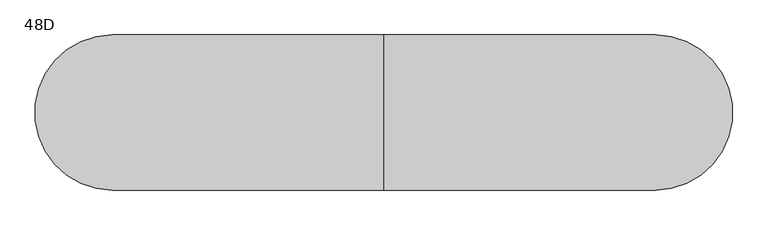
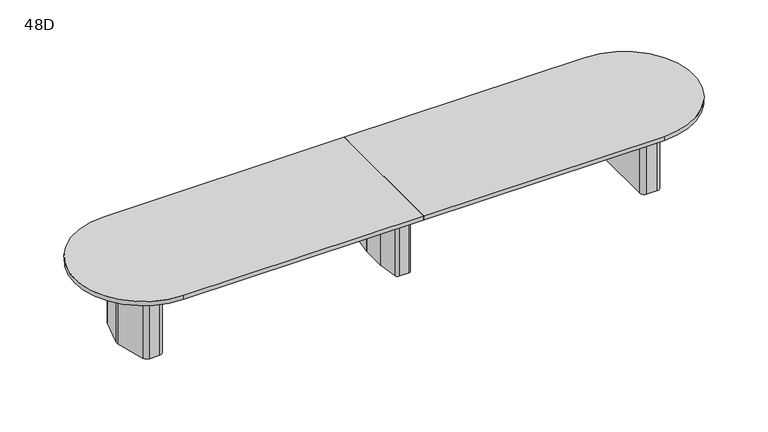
"""IFC4 building model written with IfcOpenShell, lengths in millimetres: furniture geometry, Coalesse_AM_Table_Conference_ETable2_Racetrack_18ft_ThreeBase : 48D."""

from ifc_helpers import new_model, si_unit, point, frame, frame_2d, origin, place, context, project, spatial, polyline, circle_curve, trimmed, segment, composite_curve, outline, extrude, source, transform, mapped, element, save
from ifc_brep_helpers import plane_surface, cylinder_surface, revolved_surface, advanced_brep


def furniture_48d_9ae3bff3(model_context):
    return source(origin(), model_context, "Body", "SolidModel", [
        advanced_brep(
        [(35.71875, 206.375, 3.175), (10.31875, 231.775, 3.175), (-10.31875, 231.775, 3.175), (-35.71875, 206.375, 3.175), (-35.71875, -206.375, 3.175), (-10.31875, -231.775, 3.175), (10.31875, -231.775, 3.175), (35.71875, -206.375, 3.175), (-61.11875, 206.375, 0.0), (-10.31875, 257.175, 0.0), (10.31875, 257.175, 0.0), (61.11875, 206.375, 0.0), (61.11875, -206.375, 0.0), (10.31875, -257.175, 0.0), (-10.31875, -257.175, 0.0), (-61.11875, -206.375, 0.0), (-61.11875, -206.375, 3.175), (-61.11875, 206.375, 3.175), (-10.31875, -257.175, 3.175), (10.31875, -257.175, 3.175), (61.11875, -206.375, 3.175), (61.11875, 206.375, 3.175), (10.31875, 257.175, 3.175), (-10.31875, 257.175, 3.175), (-92.6215974, 106.2976848, 698.5), (-92.86875, 102.7629613, 698.5), (-92.86875, -102.7629613, 698.5), (-92.6215974, -106.2976848, 698.5), (-67.7988375, -282.9347235, 698.5), (-42.6459902, -304.8, 698.5), (42.6459902, -304.8, 698.5), (67.7988375, -282.9347235, 698.5), (92.6215974, -106.2976848, 698.5), (92.86875, -102.7629613, 698.5), (92.86875, 102.7629613, 698.5), (92.6215974, 106.2976848, 698.5), (67.7988375, 282.9347235, 698.5), (42.6459902, 304.8, 698.5), (-42.6459902, 304.8, 698.5), (-67.7988375, 282.9347235, 698.5), (10.31875, 231.775, 698.5), (35.71875, 206.375, 698.5), (35.71875, -206.375, 698.5), (10.31875, -231.775, 698.5), (-10.31875, -231.775, 698.5), (-35.71875, -206.375, 698.5), (-35.71875, 206.375, 698.5), (-10.31875, 231.775, 698.5), (-92.6215974, 106.2976848, 3.175), (-67.7988375, 282.9347235, 3.175), (-42.6459902, 304.8, 3.175), (42.6459902, 304.8, 3.175), (67.7988375, 282.9347235, 3.175), (92.6215974, 106.2976848, 3.175), (92.86875, 102.7629613, 3.175), (92.86875, -102.7629613, 3.175), (92.6215974, -106.2976848, 3.175), (67.7988375, -282.9347235, 3.175), (42.6459902, -304.8, 3.175), (-42.6459902, -304.8, 3.175), (-67.7988375, -282.9347235, 3.175), (-92.6215974, -106.2976848, 3.175), (-92.86875, -102.7629613, 3.175), (-92.86875, 102.7629613, 3.175)],
        [
            (0, 1, circle_curve(frame((10.31875, 206.375, 3.175), z_axis=(0.0, 0.0, 1.0), x_axis=(1.0, 0.0, 0.0)), 25.4)),
            (1, 2),
            (2, 3, circle_curve(frame((-10.31875, 206.375, 3.175), z_axis=(0.0, 0.0, 1.0), x_axis=(1.0, 0.0, 0.0)), 25.4)),
            (3, 4),
            (4, 5, circle_curve(frame((-10.31875, -206.375, 3.175), z_axis=(0.0, 0.0, 1.0), x_axis=(1.0, 0.0, 0.0)), 25.4)),
            (5, 6),
            (6, 7, circle_curve(frame((10.31875, -206.375, 3.175), z_axis=(0.0, 0.0, 1.0), x_axis=(1.0, 0.0, 0.0)), 25.4)),
            (7, 0),
            (8, 9, circle_curve(frame((-10.31875, 206.375, 0.0), z_axis=(0.0, 0.0, -1.0), x_axis=(1.0, 0.0, 0.0)), 50.8)),
            (9, 10),
            (10, 11, circle_curve(frame((10.31875, 206.375, 0.0), z_axis=(0.0, 0.0, -1.0), x_axis=(1.0, 0.0, 0.0)), 50.8)),
            (11, 12),
            (12, 13, circle_curve(frame((10.31875, -206.375, 0.0), z_axis=(0.0, 0.0, -1.0), x_axis=(1.0, 0.0, 0.0)), 50.8)),
            (13, 14),
            (14, 15, circle_curve(frame((-10.31875, -206.375, 0.0), z_axis=(0.0, 0.0, -1.0), x_axis=(1.0, 0.0, 0.0)), 50.8)),
            (15, 8),
            (15, 16),
            (16, 17),
            (17, 8),
            (14, 18),
            (18, 16, circle_curve(frame((-10.31875, -206.375, 3.175), z_axis=(0.0, 0.0, -1.0), x_axis=(1.0, 0.0, 0.0)), 50.8)),
            (13, 19),
            (19, 18),
            (12, 20),
            (20, 19, circle_curve(frame((10.31875, -206.375, 3.175), z_axis=(0.0, 0.0, -1.0), x_axis=(1.0, 0.0, 0.0)), 50.8)),
            (11, 21),
            (21, 20),
            (10, 22),
            (22, 21, circle_curve(frame((10.31875, 206.375, 3.175), z_axis=(0.0, 0.0, -1.0), x_axis=(1.0, 0.0, 0.0)), 50.8)),
            (9, 23),
            (23, 22),
            (17, 23, circle_curve(frame((-10.31875, 206.375, 3.175), z_axis=(0.0, 0.0, -1.0), x_axis=(1.0, 0.0, 0.0)), 50.8)),
            (24, 25, circle_curve(frame((-67.46875, 102.7629613, 698.5), z_axis=(0.0, 0.0, 1.0), x_axis=(1.0, 0.0, 0.0)), 25.4)),
            (25, 26),
            (26, 27, circle_curve(frame((-67.46875, -102.7629613, 698.5), z_axis=(0.0, 0.0, 1.0), x_axis=(1.0, 0.0, 0.0)), 25.4)),
            (27, 28),
            (28, 29, circle_curve(frame((-42.6459902, -279.4, 698.5), z_axis=(0.0, 0.0, 1.0), x_axis=(1.0, 0.0, 0.0)), 25.4)),
            (29, 30),
            (30, 31, circle_curve(frame((42.6459902, -279.4, 698.5), z_axis=(0.0, 0.0, 1.0), x_axis=(1.0, 0.0, 0.0)), 25.4)),
            (31, 32),
            (32, 33, circle_curve(frame((67.46875, -102.7629613, 698.5), z_axis=(0.0, 0.0, 1.0), x_axis=(1.0, 0.0, 0.0)), 25.4)),
            (33, 34),
            (34, 35, circle_curve(frame((67.46875, 102.7629613, 698.5), z_axis=(0.0, 0.0, 1.0), x_axis=(1.0, 0.0, 0.0)), 25.4)),
            (35, 36),
            (36, 37, circle_curve(frame((42.6459902, 279.4, 698.5), z_axis=(0.0, 0.0, 1.0), x_axis=(1.0, 0.0, 0.0)), 25.4)),
            (37, 38),
            (38, 39, circle_curve(frame((-42.6459902, 279.4, 698.5), z_axis=(0.0, 0.0, 1.0), x_axis=(1.0, 0.0, 0.0)), 25.4)),
            (39, 24),
            (40, 41, circle_curve(frame((10.31875, 206.375, 698.5), z_axis=(0.0, 0.0, -1.0), x_axis=(1.0, 0.0, 0.0)), 25.4)),
            (41, 42),
            (42, 43, circle_curve(frame((10.31875, -206.375, 698.5), z_axis=(0.0, 0.0, -1.0), x_axis=(1.0, 0.0, 0.0)), 25.4)),
            (43, 44),
            (44, 45, circle_curve(frame((-10.31875, -206.375, 698.5), z_axis=(0.0, 0.0, -1.0), x_axis=(1.0, 0.0, 0.0)), 25.4)),
            (45, 46),
            (46, 47, circle_curve(frame((-10.31875, 206.375, 698.5), z_axis=(0.0, 0.0, -1.0), x_axis=(1.0, 0.0, 0.0)), 25.4)),
            (47, 40),
            (48, 49),
            (49, 50, circle_curve(frame((-42.6459902, 279.4, 3.175), z_axis=(0.0, 0.0, -1.0), x_axis=(1.0, 0.0, 0.0)), 25.4)),
            (50, 51),
            (51, 52, circle_curve(frame((42.6459902, 279.4, 3.175), z_axis=(0.0, 0.0, -1.0), x_axis=(1.0, 0.0, 0.0)), 25.4)),
            (52, 53),
            (53, 54, circle_curve(frame((67.46875, 102.7629613, 3.175), z_axis=(0.0, 0.0, -1.0), x_axis=(1.0, 0.0, 0.0)), 25.4)),
            (54, 55),
            (55, 56, circle_curve(frame((67.46875, -102.7629613, 3.175), z_axis=(0.0, 0.0, -1.0), x_axis=(1.0, 0.0, 0.0)), 25.4)),
            (56, 57),
            (57, 58, circle_curve(frame((42.6459902, -279.4, 3.175), z_axis=(0.0, 0.0, -1.0), x_axis=(1.0, 0.0, 0.0)), 25.4)),
            (58, 59),
            (59, 60, circle_curve(frame((-42.6459902, -279.4, 3.175), z_axis=(0.0, 0.0, -1.0), x_axis=(1.0, 0.0, 0.0)), 25.4)),
            (60, 61),
            (61, 62, circle_curve(frame((-67.46875, -102.7629613, 3.175), z_axis=(0.0, 0.0, -1.0), x_axis=(1.0, 0.0, 0.0)), 25.4)),
            (62, 63),
            (63, 48, circle_curve(frame((-67.46875, 102.7629613, 3.175), z_axis=(0.0, 0.0, -1.0), x_axis=(1.0, 0.0, 0.0)), 25.4)),
            (24, 48),
            (63, 25),
            (62, 26),
            (61, 27),
            (60, 28),
            (59, 29),
            (58, 30),
            (57, 31),
            (56, 32),
            (55, 33),
            (54, 34),
            (53, 35),
            (52, 36),
            (51, 37),
            (50, 38),
            (49, 39),
            (40, 1),
            (0, 41),
            (7, 42),
            (6, 43),
            (5, 44),
            (4, 45),
            (3, 46),
            (2, 47),
        ],
        [
            plane_surface(frame((-61.11875, -206.375, 3.175), z_axis=(0.0, 0.0, 1.0), x_axis=(0.0, -1.0, 0.0))),
            plane_surface(frame((-61.11875, -206.375, 0.0), z_axis=(0.0, 0.0, -1.0), x_axis=(0.0, 1.0, 0.0))),
            plane_surface(frame((-61.11875, 206.375, 3.175), z_axis=(-1.0, 0.0, 0.0), x_axis=(0.0, 0.0, -1.0))),
            cylinder_surface(frame((-10.31875, -206.375, 0.0), z_axis=(0.0, 0.0, 1.0), x_axis=(1.0, 0.0, 0.0)), 50.8),
            plane_surface(frame((-10.31875, -257.175, 3.175), z_axis=(0.0, -1.0, 0.0), x_axis=(0.0, 0.0, -1.0))),
            cylinder_surface(frame((10.31875, -206.375, 0.0), z_axis=(0.0, 0.0, 1.0), x_axis=(1.0, 0.0, 0.0)), 50.8),
            plane_surface(frame((61.11875, -206.375, 3.175), z_axis=(1.0, 0.0, 0.0), x_axis=(0.0, 0.0, -1.0))),
            cylinder_surface(frame((10.31875, 206.375, 0.0), z_axis=(0.0, 0.0, 1.0), x_axis=(1.0, 0.0, 0.0)), 50.8),
            plane_surface(frame((10.31875, 257.175, 3.175), z_axis=(0.0, 1.0, 0.0), x_axis=(0.0, 0.0, -1.0))),
            cylinder_surface(frame((-10.31875, 206.375, 0.0), z_axis=(0.0, 0.0, 1.0), x_axis=(1.0, 0.0, 0.0)), 50.8),
            plane_surface(frame((-42.06875, 102.7629613, 698.5), z_axis=(0.0, 0.0, 1.0), x_axis=(0.0, 1.0, 0.0))),
            plane_surface(frame((-42.06875, 102.7629613, 3.175), z_axis=(0.0, 0.0, -1.0), x_axis=(0.0, -1.0, 0.0))),
            cylinder_surface(frame((-67.46875, 102.7629613, 3.175), z_axis=(0.0, 0.0, 1.0), x_axis=(1.0, 0.0, 0.0)), 25.4),
            plane_surface(frame((-92.86875, 102.7629613, 698.5), z_axis=(-1.0, 0.0, 0.0), x_axis=(0.0, 0.0, -1.0))),
            cylinder_surface(frame((-67.46875, -102.7629613, 3.175), z_axis=(0.0, 0.0, 1.0), x_axis=(1.0, 0.0, 0.0)), 25.4),
            plane_surface(frame((-92.6215974, -106.2976848, 698.5), z_axis=(-0.9902695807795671, -0.13916234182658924, 0.0), x_axis=(0.0, 0.0, -1.0))),
            cylinder_surface(frame((-42.6459902, -279.4, 3.175), z_axis=(0.0, 0.0, 1.0), x_axis=(1.0, 0.0, 0.0)), 25.4),
            plane_surface(frame((-42.6459902, -304.8, 698.5), z_axis=(0.0, -1.0, 0.0), x_axis=(0.0, 0.0, -1.0))),
            cylinder_surface(frame((42.6459902, -279.4, 3.175), z_axis=(0.0, 0.0, 1.0), x_axis=(1.0, 0.0, 0.0)), 25.4),
            plane_surface(frame((67.7988375, -282.9347235, 698.5), z_axis=(0.9902695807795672, -0.13916234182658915, 0.0), x_axis=(0.0, 0.0, -1.0))),
            cylinder_surface(frame((67.46875, -102.7629613, 3.175), z_axis=(0.0, 0.0, 1.0), x_axis=(1.0, 0.0, 0.0)), 25.4),
            plane_surface(frame((92.86875, -102.7629613, 698.5), z_axis=(1.0, 0.0, 0.0), x_axis=(0.0, 0.0, -1.0))),
            cylinder_surface(frame((67.46875, 102.7629613, 3.175), z_axis=(0.0, 0.0, 1.0), x_axis=(1.0, 0.0, 0.0)), 25.4),
            plane_surface(frame((92.6215974, 106.2976848, 698.5), z_axis=(0.9902695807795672, 0.1391623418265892, 0.0), x_axis=(0.0, 0.0, -1.0))),
            cylinder_surface(frame((42.6459902, 279.4, 3.175), z_axis=(0.0, 0.0, 1.0), x_axis=(1.0, 0.0, 0.0)), 25.4),
            plane_surface(frame((42.6459902, 304.8, 698.5), z_axis=(0.0, 1.0, 0.0), x_axis=(0.0, 0.0, -1.0))),
            cylinder_surface(frame((-42.6459902, 279.4, 3.175), z_axis=(0.0, 0.0, 1.0), x_axis=(1.0, 0.0, 0.0)), 25.4),
            plane_surface(frame((-67.7988375, 282.9347235, 698.5), z_axis=(-0.9902695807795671, 0.13916234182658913, 0.0), x_axis=(0.0, 0.0, -1.0))),
            revolved_surface(polyline([(35.71875, 206.375, 3.175), (35.71875, 206.375, 698.5)]), (10.31875, 206.375, 0.0), (0.0, 0.0, -1.0)),
            plane_surface(frame((35.71875, 206.375, 698.5), z_axis=(-1.0, 0.0, 0.0), x_axis=(0.0, 0.0, -1.0))),
            revolved_surface(polyline([(35.71875, -206.375, 3.175), (35.71875, -206.375, 698.5)]), (10.31875, -206.375, 0.0), (0.0, 0.0, -1.0)),
            plane_surface(frame((10.31875, -231.775, 698.5), z_axis=(0.0, 1.0, 0.0), x_axis=(0.0, 0.0, -1.0))),
            revolved_surface(polyline([(15.081249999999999, -206.375, 3.175), (15.081249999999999, -206.375, 698.5)]), (-10.31875, -206.375, 0.0), (0.0, 0.0, -1.0)),
            plane_surface(frame((-35.71875, -206.375, 698.5), z_axis=(1.0, 0.0, 0.0), x_axis=(0.0, 0.0, -1.0))),
            revolved_surface(polyline([(15.081249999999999, 206.375, 3.175), (15.081249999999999, 206.375, 698.5)]), (-10.31875, 206.375, 0.0), (0.0, 0.0, -1.0)),
            plane_surface(frame((-10.31875, 231.775, 698.5), z_axis=(0.0, -1.0, 0.0), x_axis=(0.0, 0.0, -1.0))),
        ],
        [
            (0, [[1, 2, 3, 4, 5, 6, 7, 8]]),
            (1, [[9, 10, 11, 12, 13, 14, 15, 16]]),
            (2, [[-16, 17, 18, 19]]),
            (3, [[-15, 20, 21, -17]]),
            (4, [[-14, 22, 23, -20]]),
            (5, [[-13, 24, 25, -22]]),
            (6, [[-12, 26, 27, -24]]),
            (7, [[-11, 28, 29, -26]]),
            (8, [[-10, 30, 31, -28]]),
            (9, [[-9, -19, 32, -30]]),
            (10, [[33, 34, 35, 36, 37, 38, 39, 40, 41, 42, 43, 44, 45, 46, 47, 48], [49, 50, 51, 52, 53, 54, 55, 56]]),
            (11, [[57, 58, 59, 60, 61, 62, 63, 64, 65, 66, 67, 68, 69, 70, 71, 72], [-18, -21, -23, -25, -27, -29, -31, -32]]),
            (12, [[-33, 73, -72, 74]]),
            (13, [[-34, -74, -71, 75]]),
            (14, [[-35, -75, -70, 76]]),
            (15, [[-36, -76, -69, 77]]),
            (16, [[-37, -77, -68, 78]]),
            (17, [[-38, -78, -67, 79]]),
            (18, [[-39, -79, -66, 80]]),
            (19, [[-40, -80, -65, 81]]),
            (20, [[-41, -81, -64, 82]]),
            (21, [[-42, -82, -63, 83]]),
            (22, [[-43, -83, -62, 84]]),
            (23, [[-44, -84, -61, 85]]),
            (24, [[-45, -85, -60, 86]]),
            (25, [[-46, -86, -59, 87]]),
            (26, [[-47, -87, -58, 88]]),
            (27, [[-48, -88, -57, -73]]),
            (28, [[-49, 89, -1, 90]]),
            (29, [[-50, -90, -8, 91]]),
            (30, [[-51, -91, -7, 92]]),
            (31, [[-52, -92, -6, 93]]),
            (32, [[-53, -93, -5, 94]]),
            (33, [[-54, -94, -4, 95]]),
            (34, [[-55, -95, -3, 96]]),
            (35, [[-56, -96, -2, -89]]),
        ],
    ),
        advanced_brep(
        [(2284.624548, 274.2093613, 698.5), (2244.7579246, 304.8, 698.5), (2155.825, 304.8, 698.5), (2114.55, 263.525, 698.5), (2114.55, -263.525, 698.5), (2155.825, -304.8, 698.5), (2244.7579246, -304.8, 698.5), (2284.624548, -274.2093613, 698.5), (2355.2503901, -10.6333708, 698.5), (2355.2503901, 10.6333708, 698.5), (2152.65, -206.375, 698.5), (2152.65, 206.375, 698.5), (2178.05, 231.775, 698.5), (2237.0608422, 231.775, 698.5), (2261.595338, 212.9490792, 698.5), (2300.2875, 68.54974, 698.5), (2300.2875, -68.54974, 698.5), (2261.595338, -212.9490792, 698.5), (2237.0608422, -231.775, 698.5), (2178.05, -231.775, 698.5), (2284.624548, 274.2093613, 3.175), (2355.2503901, 10.6333708, 3.175), (2355.2503901, -10.6333708, 3.175), (2284.624548, -274.2093613, 3.175), (2244.7579246, -304.8, 3.175), (2155.825, -304.8, 3.175), (2114.55, -263.525, 3.175), (2114.55, 263.525, 3.175), (2155.825, 304.8, 3.175), (2244.7579246, 304.8, 3.175), (2273.8625859, 216.2361187, 3.175), (2237.0608422, 244.475, 3.175), (2178.05, 244.475, 3.175), (2139.95, 206.375, 3.175), (2139.95, -206.375, 3.175), (2178.05, -244.475, 3.175), (2237.0608422, -244.475, 3.175), (2273.8625859, -216.2361187, 3.175), (2312.9875, -70.2217466, 3.175), (2312.9875, 70.2217466, 3.175), (2178.05, -231.775, 3.175), (2152.65, -206.375, 3.175), (2237.0608422, -231.775, 3.175), (2261.595338, -212.9490792, 3.175), (2300.2875, -68.54974, 3.175), (2300.2875, 68.54974, 3.175), (2261.595338, 212.9490792, 3.175), (2237.0608422, 231.775, 3.175), (2178.05, 231.775, 3.175), (2152.65, 206.375, 3.175), (2273.8625859, 216.2361187, 0.0), (2312.9875, 70.2217466, 0.0), (2312.9875, -70.2217466, 0.0), (2273.8625859, -216.2361187, 0.0), (2237.0608422, -244.475, 0.0), (2178.05, -244.475, 0.0), (2139.95, -206.375, 0.0), (2139.95, 206.375, 0.0), (2178.05, 244.475, 0.0), (2237.0608422, 244.475, 0.0)],
        [
            (0, 1, circle_curve(frame((2244.7579246, 263.5270004, 698.5), z_axis=(0.0, 0.0, 1.0), x_axis=(-1.0, 0.0, 0.0)), 41.2729996)),
            (1, 2),
            (2, 3, circle_curve(frame((2155.825, 263.525, 698.5), z_axis=(0.0, 0.0, 1.0), x_axis=(-1.0, 0.0, 0.0)), 41.275)),
            (3, 4),
            (4, 5, circle_curve(frame((2155.825, -263.525, 698.5), z_axis=(0.0, 0.0, 1.0), x_axis=(-1.0, 0.0, 0.0)), 41.275)),
            (5, 6),
            (6, 7, circle_curve(frame((2244.7579246, -263.5270004, 698.5), z_axis=(0.0, 0.0, 1.0), x_axis=(-1.0, 0.0, 0.0)), 41.2729996)),
            (7, 8),
            (8, 9, circle_curve(frame((2315.5665979, 0.0, 698.5), z_axis=(0.0, 0.0, 1.0), x_axis=(-1.0, 0.0, 0.0)), 41.0837187)),
            (9, 0),
            (10, 11),
            (11, 12, circle_curve(frame((2178.05, 206.375, 698.5), z_axis=(0.0, 0.0, -1.0), x_axis=(-1.0, 0.0, 0.0)), 25.4)),
            (12, 13),
            (13, 14, circle_curve(frame((2237.0608422, 206.375, 698.5), z_axis=(0.0, 0.0, -1.0), x_axis=(-1.0, 0.0, 0.0)), 25.4)),
            (14, 15),
            (15, 16),
            (16, 17),
            (17, 18, circle_curve(frame((2237.0608422, -206.375, 698.5), z_axis=(0.0, 0.0, -1.0), x_axis=(-1.0, 0.0, 0.0)), 25.4)),
            (18, 19),
            (19, 10, circle_curve(frame((2178.05, -206.375, 698.5), z_axis=(0.0, 0.0, -1.0), x_axis=(-1.0, 0.0, 0.0)), 25.4)),
            (20, 21),
            (21, 22, circle_curve(frame((2315.5665979, 0.0, 3.175), z_axis=(0.0, 0.0, -1.0), x_axis=(-1.0, 0.0, 0.0)), 41.0837187)),
            (22, 23),
            (23, 24, circle_curve(frame((2244.7579246, -263.5270004, 3.175), z_axis=(0.0, 0.0, -1.0), x_axis=(-1.0, 0.0, 0.0)), 41.2729996)),
            (24, 25),
            (25, 26, circle_curve(frame((2155.825, -263.525, 3.175), z_axis=(0.0, 0.0, -1.0), x_axis=(-1.0, 0.0, 0.0)), 41.275)),
            (26, 27),
            (27, 28, circle_curve(frame((2155.825, 263.525, 3.175), z_axis=(0.0, 0.0, -1.0), x_axis=(-1.0, 0.0, 0.0)), 41.275)),
            (28, 29),
            (29, 20, circle_curve(frame((2244.7579246, 263.5270004, 3.175), z_axis=(0.0, 0.0, -1.0), x_axis=(-1.0, 0.0, 0.0)), 41.2729996)),
            (30, 31, circle_curve(frame((2237.0608422, 206.375, 3.175), z_axis=(0.0, 0.0, 1.0), x_axis=(-1.0, 0.0, 0.0)), 38.1)),
            (31, 32),
            (32, 33, circle_curve(frame((2178.05, 206.375, 3.175), z_axis=(0.0, 0.0, 1.0), x_axis=(-1.0, 0.0, 0.0)), 38.1)),
            (33, 34),
            (34, 35, circle_curve(frame((2178.05, -206.375, 3.175), z_axis=(0.0, 0.0, 1.0), x_axis=(-1.0, 0.0, 0.0)), 38.1)),
            (35, 36),
            (36, 37, circle_curve(frame((2237.0608422, -206.375, 3.175), z_axis=(0.0, 0.0, 1.0), x_axis=(-1.0, 0.0, 0.0)), 38.1)),
            (37, 38),
            (38, 39),
            (39, 30),
            (9, 21),
            (20, 0),
            (8, 22),
            (7, 23),
            (6, 24),
            (5, 25),
            (4, 26),
            (3, 27),
            (2, 28),
            (1, 29),
            (19, 40),
            (40, 41, circle_curve(frame((2178.05, -206.375, 3.175), z_axis=(0.0, 0.0, -1.0), x_axis=(-1.0, 0.0, 0.0)), 25.4)),
            (41, 10),
            (18, 42),
            (42, 40),
            (17, 43),
            (43, 42, circle_curve(frame((2237.0608422, -206.375, 3.175), z_axis=(0.0, 0.0, -1.0), x_axis=(-1.0, 0.0, 0.0)), 25.4)),
            (16, 44),
            (44, 43),
            (15, 45),
            (45, 44),
            (14, 46),
            (46, 45),
            (13, 47),
            (47, 46, circle_curve(frame((2237.0608422, 206.375, 3.175), z_axis=(0.0, 0.0, -1.0), x_axis=(-1.0, 0.0, 0.0)), 25.4)),
            (12, 48),
            (48, 47),
            (11, 49),
            (49, 48, circle_curve(frame((2178.05, 206.375, 3.175), z_axis=(0.0, 0.0, -1.0), x_axis=(-1.0, 0.0, 0.0)), 25.4)),
            (41, 49),
            (50, 51),
            (51, 52),
            (52, 53),
            (53, 54, circle_curve(frame((2237.0608422, -206.375, 0.0), z_axis=(0.0, 0.0, -1.0), x_axis=(-1.0, 0.0, 0.0)), 38.1)),
            (54, 55),
            (55, 56, circle_curve(frame((2178.05, -206.375, 0.0), z_axis=(0.0, 0.0, -1.0), x_axis=(-1.0, 0.0, 0.0)), 38.1)),
            (56, 57),
            (57, 58, circle_curve(frame((2178.05, 206.375, 0.0), z_axis=(0.0, 0.0, -1.0), x_axis=(-1.0, 0.0, 0.0)), 38.1)),
            (58, 59),
            (59, 50, circle_curve(frame((2237.0608422, 206.375, 0.0), z_axis=(0.0, 0.0, -1.0), x_axis=(-1.0, 0.0, 0.0)), 38.1)),
            (50, 30),
            (39, 51),
            (38, 52),
            (37, 53),
            (36, 54),
            (35, 55),
            (34, 56),
            (33, 57),
            (32, 58),
            (31, 59),
        ],
        [
            plane_surface(frame((2355.2374275, 10.6817473, 698.5), z_axis=(0.0, 0.0, 1.0000000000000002), x_axis=(0.25882201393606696, -0.9659250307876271, 0.0))),
            plane_surface(frame((2355.2374275, 10.6817473, 3.175), z_axis=(0.0, 0.0, -1.0000000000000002), x_axis=(-0.25882201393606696, 0.9659250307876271, 0.0))),
            plane_surface(frame((2284.624548, 274.2093613, 698.5), z_axis=(0.9659250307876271, 0.25882201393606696, 0.0), x_axis=(0.0, 0.0, -1.0))),
            cylinder_surface(frame((2315.5665979, 0.0, 3.175), z_axis=(0.0, 0.0, 1.0), x_axis=(-1.0, 0.0, 0.0)), 41.0837187),
            plane_surface(frame((2355.2503901, -10.6333708, 698.5), z_axis=(0.9659250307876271, -0.2588220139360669, 0.0), x_axis=(0.0, 0.0, -1.0))),
            cylinder_surface(frame((2244.7579246, -263.5270004, 3.175), z_axis=(0.0, 0.0, 1.0), x_axis=(-1.0, 0.0, 0.0)), 41.2729996),
            plane_surface(frame((2244.7579246, -304.8, 698.5), z_axis=(0.0, -1.0, 0.0), x_axis=(0.0, 0.0, -1.0))),
            cylinder_surface(frame((2155.825, -263.525, 3.175), z_axis=(0.0, 0.0, 1.0), x_axis=(-1.0, 0.0, 0.0)), 41.275),
            plane_surface(frame((2114.55, -263.525, 698.5), z_axis=(-1.0, 0.0, 0.0), x_axis=(0.0, 0.0, -1.0))),
            cylinder_surface(frame((2155.825, 263.525, 3.175), z_axis=(0.0, 0.0, 1.0), x_axis=(-1.0, 0.0, 0.0)), 41.275),
            plane_surface(frame((2155.825, 304.8, 698.5), z_axis=(0.0, 1.0, 0.0), x_axis=(0.0, 0.0, -1.0))),
            cylinder_surface(frame((2244.7579246, 263.5270004, 3.175), z_axis=(0.0, 0.0, 1.0), x_axis=(-1.0, 0.0, 0.0)), 41.2729996),
            revolved_surface(polyline([(2152.65, -206.375, 3.175), (2152.65, -206.375, 698.5)]), (2178.05, -206.375, 0.0), (0.0, 0.0, -1.0)),
            plane_surface(frame((2178.05, -231.775, 698.5), z_axis=(0.0, 1.0, 0.0), x_axis=(0.0, 0.0, -1.0))),
            revolved_surface(polyline([(2211.6608422, -206.375, 3.175), (2211.6608422, -206.375, 698.5)]), (2237.0608422, -206.375, 0.0), (0.0, 0.0, -1.0)),
            plane_surface(frame((2261.595338, -212.9490792, 698.5), z_axis=(-0.9659250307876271, 0.2588220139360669, 0.0), x_axis=(0.0, 0.0, -1.0))),
            plane_surface(frame((2300.2875, -68.54974, 698.5), z_axis=(-1.0, 0.0, 0.0), x_axis=(0.0, 0.0, -1.0))),
            plane_surface(frame((2300.2875, 68.54974, 698.5), z_axis=(-0.9659250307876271, -0.25882201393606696, 0.0), x_axis=(0.0, 0.0, -1.0))),
            revolved_surface(polyline([(2211.6608422, 206.375, 3.175), (2211.6608422, 206.375, 698.5)]), (2237.0608422, 206.375, 0.0), (0.0, 0.0, -1.0)),
            plane_surface(frame((2237.0608422, 231.775, 698.5), z_axis=(0.0, -1.0, 0.0), x_axis=(0.0, 0.0, -1.0))),
            revolved_surface(polyline([(2152.65, 206.375, 3.175), (2152.65, 206.375, 698.5)]), (2178.05, 206.375, 0.0), (0.0, 0.0, -1.0)),
            plane_surface(frame((2152.65, 206.375, 698.5), z_axis=(1.0, 0.0, 0.0), x_axis=(0.0, 0.0, -1.0))),
            plane_surface(frame((2312.5547479, 71.8367796, 3.175), z_axis=(0.0, 0.0, 1.0), x_axis=(0.25882201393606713, -0.965925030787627, 0.0))),
            plane_surface(frame((2312.5547479, 71.8367796, 0.0), z_axis=(0.0, 0.0, -1.0), x_axis=(-0.25882201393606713, 0.965925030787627, 0.0))),
            plane_surface(frame((2273.8625859, 216.2361187, 3.175), z_axis=(0.965925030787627, 0.25882201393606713, 0.0), x_axis=(0.0, 0.0, -1.0))),
            plane_surface(frame((2312.9875, 70.2217466, 3.175), z_axis=(1.0, 0.0, 0.0), x_axis=(0.0, 0.0, -1.0))),
            plane_surface(frame((2312.9875, -70.2217466, 3.175), z_axis=(0.9659250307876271, -0.2588220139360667, 0.0), x_axis=(0.0, 0.0, -1.0))),
            cylinder_surface(frame((2237.0608422, -206.375, 0.0), z_axis=(0.0, 0.0, 1.0), x_axis=(-1.0, 0.0, 0.0)), 38.1),
            plane_surface(frame((2237.0608422, -244.475, 3.175), z_axis=(0.0, -1.0, 0.0), x_axis=(0.0, 0.0, -1.0))),
            cylinder_surface(frame((2178.05, -206.375, 0.0), z_axis=(0.0, 0.0, 1.0), x_axis=(-1.0, 0.0, 0.0)), 38.1),
            plane_surface(frame((2139.95, -206.375, 3.175), z_axis=(-1.0, 0.0, 0.0), x_axis=(0.0, 0.0, -1.0))),
            cylinder_surface(frame((2178.05, 206.375, 0.0), z_axis=(0.0, 0.0, 1.0), x_axis=(-1.0, 0.0, 0.0)), 38.1),
            plane_surface(frame((2178.05, 244.475, 3.175), z_axis=(0.0, 1.0, 0.0), x_axis=(0.0, 0.0, -1.0))),
            cylinder_surface(frame((2237.0608422, 206.375, 0.0), z_axis=(0.0, 0.0, 1.0), x_axis=(-1.0, 0.0, 0.0)), 38.1),
        ],
        [
            (0, [[1, 2, 3, 4, 5, 6, 7, 8, 9, 10], [11, 12, 13, 14, 15, 16, 17, 18, 19, 20]]),
            (1, [[21, 22, 23, 24, 25, 26, 27, 28, 29, 30], [31, 32, 33, 34, 35, 36, 37, 38, 39, 40]]),
            (2, [[41, -21, 42, -10]]),
            (3, [[43, -22, -41, -9]]),
            (4, [[44, -23, -43, -8]]),
            (5, [[45, -24, -44, -7]]),
            (6, [[46, -25, -45, -6]]),
            (7, [[47, -26, -46, -5]]),
            (8, [[48, -27, -47, -4]]),
            (9, [[49, -28, -48, -3]]),
            (10, [[50, -29, -49, -2]]),
            (11, [[-42, -30, -50, -1]]),
            (12, [[51, 52, 53, -20]]),
            (13, [[54, 55, -51, -19]]),
            (14, [[56, 57, -54, -18]]),
            (15, [[58, 59, -56, -17]]),
            (16, [[60, 61, -58, -16]]),
            (17, [[62, 63, -60, -15]]),
            (18, [[64, 65, -62, -14]]),
            (19, [[66, 67, -64, -13]]),
            (20, [[68, 69, -66, -12]]),
            (21, [[-53, 70, -68, -11]]),
            (22, [[-55, -57, -59, -61, -63, -65, -67, -69, -70, -52]]),
            (23, [[71, 72, 73, 74, 75, 76, 77, 78, 79, 80]]),
            (24, [[81, -40, 82, -71]]),
            (25, [[-82, -39, 83, -72]]),
            (26, [[-83, -38, 84, -73]]),
            (27, [[-84, -37, 85, -74]]),
            (28, [[-85, -36, 86, -75]]),
            (29, [[-86, -35, 87, -76]]),
            (30, [[-87, -34, 88, -77]]),
            (31, [[-88, -33, 89, -78]]),
            (32, [[-89, -32, 90, -79]]),
            (33, [[-90, -31, -81, -80]]),
        ],
    ),
        advanced_brep(
        [(-2295.737048, 274.2093613, 698.5), (-2366.3628901, 10.6333708, 698.5), (-2366.3628901, -10.6333708, 698.5), (-2295.737048, -274.2093613, 698.5), (-2255.8704246, -304.8, 698.5), (-2166.9375, -304.8, 698.5), (-2125.6625, -263.525, 698.5), (-2125.6625, 263.525, 698.5), (-2166.9375, 304.8, 698.5), (-2255.8704246, 304.8, 698.5), (-2163.7625, -206.375, 698.5), (-2189.1625, -231.775, 698.5), (-2248.1733422, -231.775, 698.5), (-2272.707838, -212.9490792, 698.5), (-2311.4, -68.54974, 698.5), (-2311.4, 68.54974, 698.5), (-2272.707838, 212.9490792, 698.5), (-2248.1733422, 231.775, 698.5), (-2189.1625, 231.775, 698.5), (-2163.7625, 206.375, 698.5), (-2295.737048, 274.2093613, 3.175), (-2255.8704246, 304.8, 3.175), (-2166.9375, 304.8, 3.175), (-2125.6625, 263.525, 3.175), (-2125.6625, -263.525, 3.175), (-2166.9375, -304.8, 3.175), (-2255.8704246, -304.8, 3.175), (-2295.737048, -274.2093613, 3.175), (-2366.3628901, -10.6333708, 3.175), (-2366.3628901, 10.6333708, 3.175), (-2284.9750859, 216.2361187, 3.175), (-2324.1, 70.2217466, 3.175), (-2324.1, -70.2217466, 3.175), (-2284.9750859, -216.2361187, 3.175), (-2248.1733422, -244.475, 3.175), (-2189.1625, -244.475, 3.175), (-2151.0625, -206.375, 3.175), (-2151.0625, 206.375, 3.175), (-2189.1625, 244.475, 3.175), (-2248.1733422, 244.475, 3.175), (-2163.7625, -206.375, 3.175), (-2189.1625, -231.775, 3.175), (-2248.1733422, -231.775, 3.175), (-2272.707838, -212.9490792, 3.175), (-2311.4, -68.54974, 3.175), (-2311.4, 68.54974, 3.175), (-2272.707838, 212.9490792, 3.175), (-2248.1733422, 231.775, 3.175), (-2189.1625, 231.775, 3.175), (-2163.7625, 206.375, 3.175), (-2284.9750859, 216.2361187, 0.0), (-2248.1733422, 244.475, 0.0), (-2189.1625, 244.475, 0.0), (-2151.0625, 206.375, 0.0), (-2151.0625, -206.375, 0.0), (-2189.1625, -244.475, 0.0), (-2248.1733422, -244.475, 0.0), (-2284.9750859, -216.2361187, 0.0), (-2324.1, -70.2217466, 0.0), (-2324.1, 70.2217466, 0.0)],
        [
            (0, 1),
            (1, 2, circle_curve(frame((-2326.6790979, 0.0, 698.5), z_axis=(0.0, 0.0, 1.0), x_axis=(1.0, 0.0, 0.0)), 41.0837187)),
            (2, 3),
            (3, 4, circle_curve(frame((-2255.8704246, -263.5270004, 698.5), z_axis=(0.0, 0.0, 1.0), x_axis=(1.0, 0.0, 0.0)), 41.2729996)),
            (4, 5),
            (5, 6, circle_curve(frame((-2166.9375, -263.525, 698.5), z_axis=(0.0, 0.0, 1.0), x_axis=(1.0, 0.0, 0.0)), 41.275)),
            (6, 7),
            (7, 8, circle_curve(frame((-2166.9375, 263.525, 698.5), z_axis=(0.0, 0.0, 1.0), x_axis=(1.0, 0.0, 0.0)), 41.275)),
            (8, 9),
            (9, 0, circle_curve(frame((-2255.8704246, 263.5270004, 698.5), z_axis=(0.0, 0.0, 1.0), x_axis=(1.0, 0.0, 0.0)), 41.2729996)),
            (10, 11, circle_curve(frame((-2189.1625, -206.375, 698.5), z_axis=(0.0, 0.0, -1.0), x_axis=(1.0, 0.0, 0.0)), 25.4)),
            (11, 12),
            (12, 13, circle_curve(frame((-2248.1733422, -206.375, 698.5), z_axis=(0.0, 0.0, -1.0), x_axis=(1.0, 0.0, 0.0)), 25.4)),
            (13, 14),
            (14, 15),
            (15, 16),
            (16, 17, circle_curve(frame((-2248.1733422, 206.375, 698.5), z_axis=(0.0, 0.0, -1.0), x_axis=(1.0, 0.0, 0.0)), 25.4)),
            (17, 18),
            (18, 19, circle_curve(frame((-2189.1625, 206.375, 698.5), z_axis=(0.0, 0.0, -1.0), x_axis=(1.0, 0.0, 0.0)), 25.4)),
            (19, 10),
            (20, 21, circle_curve(frame((-2255.8704246, 263.5270004, 3.175), z_axis=(0.0, 0.0, -1.0), x_axis=(1.0, 0.0, 0.0)), 41.2729996)),
            (21, 22),
            (22, 23, circle_curve(frame((-2166.9375, 263.525, 3.175), z_axis=(0.0, 0.0, -1.0), x_axis=(1.0, 0.0, 0.0)), 41.275)),
            (23, 24),
            (24, 25, circle_curve(frame((-2166.9375, -263.525, 3.175), z_axis=(0.0, 0.0, -1.0), x_axis=(1.0, 0.0, 0.0)), 41.275)),
            (25, 26),
            (26, 27, circle_curve(frame((-2255.8704246, -263.5270004, 3.175), z_axis=(0.0, 0.0, -1.0), x_axis=(1.0, 0.0, 0.0)), 41.2729996)),
            (27, 28),
            (28, 29, circle_curve(frame((-2326.6790979, 0.0, 3.175), z_axis=(0.0, 0.0, -1.0), x_axis=(1.0, 0.0, 0.0)), 41.0837187)),
            (29, 20),
            (30, 31),
            (31, 32),
            (32, 33),
            (33, 34, circle_curve(frame((-2248.1733422, -206.375, 3.175), z_axis=(0.0, 0.0, 1.0), x_axis=(1.0, 0.0, 0.0)), 38.1)),
            (34, 35),
            (35, 36, circle_curve(frame((-2189.1625, -206.375, 3.175), z_axis=(0.0, 0.0, 1.0), x_axis=(1.0, 0.0, 0.0)), 38.1)),
            (36, 37),
            (37, 38, circle_curve(frame((-2189.1625, 206.375, 3.175), z_axis=(0.0, 0.0, 1.0), x_axis=(1.0, 0.0, 0.0)), 38.1)),
            (38, 39),
            (39, 30, circle_curve(frame((-2248.1733422, 206.375, 3.175), z_axis=(0.0, 0.0, 1.0), x_axis=(1.0, 0.0, 0.0)), 38.1)),
            (0, 20),
            (29, 1),
            (28, 2),
            (27, 3),
            (26, 4),
            (25, 5),
            (24, 6),
            (23, 7),
            (22, 8),
            (21, 9),
            (10, 40),
            (40, 41, circle_curve(frame((-2189.1625, -206.375, 3.175), z_axis=(0.0, 0.0, -1.0), x_axis=(1.0, 0.0, 0.0)), 25.4)),
            (41, 11),
            (41, 42),
            (42, 12),
            (42, 43, circle_curve(frame((-2248.1733422, -206.375, 3.175), z_axis=(0.0, 0.0, -1.0), x_axis=(1.0, 0.0, 0.0)), 25.4)),
            (43, 13),
            (43, 44),
            (44, 14),
            (44, 45),
            (45, 15),
            (45, 46),
            (46, 16),
            (46, 47, circle_curve(frame((-2248.1733422, 206.375, 3.175), z_axis=(0.0, 0.0, -1.0), x_axis=(1.0, 0.0, 0.0)), 25.4)),
            (47, 17),
            (47, 48),
            (48, 18),
            (48, 49, circle_curve(frame((-2189.1625, 206.375, 3.175), z_axis=(0.0, 0.0, -1.0), x_axis=(1.0, 0.0, 0.0)), 25.4)),
            (49, 19),
            (49, 40),
            (50, 51, circle_curve(frame((-2248.1733422, 206.375, 0.0), z_axis=(0.0, 0.0, -1.0), x_axis=(1.0, 0.0, 0.0)), 38.1)),
            (51, 52),
            (52, 53, circle_curve(frame((-2189.1625, 206.375, 0.0), z_axis=(0.0, 0.0, -1.0), x_axis=(1.0, 0.0, 0.0)), 38.1)),
            (53, 54),
            (54, 55, circle_curve(frame((-2189.1625, -206.375, 0.0), z_axis=(0.0, 0.0, -1.0), x_axis=(1.0, 0.0, 0.0)), 38.1)),
            (55, 56),
            (56, 57, circle_curve(frame((-2248.1733422, -206.375, 0.0), z_axis=(0.0, 0.0, -1.0), x_axis=(1.0, 0.0, 0.0)), 38.1)),
            (57, 58),
            (58, 59),
            (59, 50),
            (59, 31),
            (30, 50),
            (58, 32),
            (57, 33),
            (56, 34),
            (55, 35),
            (54, 36),
            (53, 37),
            (52, 38),
            (51, 39),
        ],
        [
            plane_surface(frame((-2366.3499275, 10.6817473, 698.5), z_axis=(0.0, 0.0, 1.0000000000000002), x_axis=(-0.25882201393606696, -0.9659250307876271, 0.0))),
            plane_surface(frame((-2366.3499275, 10.6817473, 3.175), z_axis=(0.0, 0.0, -1.0000000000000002), x_axis=(0.25882201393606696, 0.9659250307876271, 0.0))),
            plane_surface(frame((-2295.737048, 274.2093613, 698.5), z_axis=(-0.9659250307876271, 0.25882201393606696, 0.0), x_axis=(0.0, 0.0, -1.0))),
            cylinder_surface(frame((-2326.6790979, 0.0, 3.175), z_axis=(0.0, 0.0, 1.0), x_axis=(1.0, 0.0, 0.0)), 41.0837187),
            plane_surface(frame((-2366.3628901, -10.6333708, 698.5), z_axis=(-0.9659250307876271, -0.2588220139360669, 0.0), x_axis=(0.0, 0.0, -1.0))),
            cylinder_surface(frame((-2255.8704246, -263.5270004, 3.175), z_axis=(0.0, 0.0, 1.0), x_axis=(1.0, 0.0, 0.0)), 41.2729996),
            plane_surface(frame((-2255.8704246, -304.8, 698.5), z_axis=(0.0, -1.0, 0.0), x_axis=(0.0, 0.0, -1.0))),
            cylinder_surface(frame((-2166.9375, -263.525, 3.175), z_axis=(0.0, 0.0, 1.0), x_axis=(1.0, 0.0, 0.0)), 41.275),
            plane_surface(frame((-2125.6625, -263.525, 698.5), z_axis=(1.0, 0.0, 0.0), x_axis=(0.0, 0.0, -1.0))),
            cylinder_surface(frame((-2166.9375, 263.525, 3.175), z_axis=(0.0, 0.0, 1.0), x_axis=(1.0, 0.0, 0.0)), 41.275),
            plane_surface(frame((-2166.9375, 304.8, 698.5), z_axis=(0.0, 1.0, 0.0), x_axis=(0.0, 0.0, -1.0))),
            cylinder_surface(frame((-2255.8704246, 263.5270004, 3.175), z_axis=(0.0, 0.0, 1.0), x_axis=(1.0, 0.0, 0.0)), 41.2729996),
            revolved_surface(polyline([(-2163.7625, -206.375, 3.175), (-2163.7625, -206.375, 698.5)]), (-2189.1625, -206.375, 0.0), (0.0, 0.0, -1.0)),
            plane_surface(frame((-2189.1625, -231.775, 698.5), z_axis=(0.0, 1.0, 0.0), x_axis=(0.0, 0.0, -1.0))),
            revolved_surface(polyline([(-2222.7733422, -206.375, 3.175), (-2222.7733422, -206.375, 698.5)]), (-2248.1733422, -206.375, 0.0), (0.0, 0.0, -1.0)),
            plane_surface(frame((-2272.707838, -212.9490792, 698.5), z_axis=(0.9659250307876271, 0.2588220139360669, 0.0), x_axis=(0.0, 0.0, -1.0))),
            plane_surface(frame((-2311.4, -68.54974, 698.5), z_axis=(1.0, 0.0, 0.0), x_axis=(0.0, 0.0, -1.0))),
            plane_surface(frame((-2311.4, 68.54974, 698.5), z_axis=(0.9659250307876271, -0.25882201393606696, 0.0), x_axis=(0.0, 0.0, -1.0))),
            revolved_surface(polyline([(-2222.7733422, 206.375, 3.175), (-2222.7733422, 206.375, 698.5)]), (-2248.1733422, 206.375, 0.0), (0.0, 0.0, -1.0)),
            plane_surface(frame((-2248.1733422, 231.775, 698.5), z_axis=(0.0, -1.0, 0.0), x_axis=(0.0, 0.0, -1.0))),
            revolved_surface(polyline([(-2163.7625, 206.375, 3.175), (-2163.7625, 206.375, 698.5)]), (-2189.1625, 206.375, 0.0), (0.0, 0.0, -1.0)),
            plane_surface(frame((-2163.7625, 206.375, 698.5), z_axis=(-1.0, 0.0, 0.0), x_axis=(0.0, 0.0, -1.0))),
            plane_surface(frame((-2323.6672479, 71.8367796, 3.175), z_axis=(0.0, 0.0, 1.0), x_axis=(-0.25882201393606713, -0.965925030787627, 0.0))),
            plane_surface(frame((-2323.6672479, 71.8367796, 0.0), z_axis=(0.0, 0.0, -1.0), x_axis=(0.25882201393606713, 0.965925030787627, 0.0))),
            plane_surface(frame((-2284.9750859, 216.2361187, 3.175), z_axis=(-0.965925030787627, 0.25882201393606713, 0.0), x_axis=(0.0, 0.0, -1.0))),
            plane_surface(frame((-2324.1, 70.2217466, 3.175), z_axis=(-1.0, 0.0, 0.0), x_axis=(0.0, 0.0, -1.0))),
            plane_surface(frame((-2324.1, -70.2217466, 3.175), z_axis=(-0.9659250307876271, -0.2588220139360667, 0.0), x_axis=(0.0, 0.0, -1.0))),
            cylinder_surface(frame((-2248.1733422, -206.375, 0.0), z_axis=(0.0, 0.0, 1.0), x_axis=(1.0, 0.0, 0.0)), 38.1),
            plane_surface(frame((-2248.1733422, -244.475, 3.175), z_axis=(0.0, -1.0, 0.0), x_axis=(0.0, 0.0, -1.0))),
            cylinder_surface(frame((-2189.1625, -206.375, 0.0), z_axis=(0.0, 0.0, 1.0), x_axis=(1.0, 0.0, 0.0)), 38.1),
            plane_surface(frame((-2151.0625, -206.375, 3.175), z_axis=(1.0, 0.0, 0.0), x_axis=(0.0, 0.0, -1.0))),
            cylinder_surface(frame((-2189.1625, 206.375, 0.0), z_axis=(0.0, 0.0, 1.0), x_axis=(1.0, 0.0, 0.0)), 38.1),
            plane_surface(frame((-2189.1625, 244.475, 3.175), z_axis=(0.0, 1.0, 0.0), x_axis=(0.0, 0.0, -1.0))),
            cylinder_surface(frame((-2248.1733422, 206.375, 0.0), z_axis=(0.0, 0.0, 1.0), x_axis=(1.0, 0.0, 0.0)), 38.1),
        ],
        [
            (0, [[1, 2, 3, 4, 5, 6, 7, 8, 9, 10], [11, 12, 13, 14, 15, 16, 17, 18, 19, 20]]),
            (1, [[21, 22, 23, 24, 25, 26, 27, 28, 29, 30], [31, 32, 33, 34, 35, 36, 37, 38, 39, 40]]),
            (2, [[-1, 41, -30, 42]]),
            (3, [[-2, -42, -29, 43]]),
            (4, [[-3, -43, -28, 44]]),
            (5, [[-4, -44, -27, 45]]),
            (6, [[-5, -45, -26, 46]]),
            (7, [[-6, -46, -25, 47]]),
            (8, [[-7, -47, -24, 48]]),
            (9, [[-8, -48, -23, 49]]),
            (10, [[-9, -49, -22, 50]]),
            (11, [[-10, -50, -21, -41]]),
            (12, [[-11, 51, 52, 53]]),
            (13, [[-12, -53, 54, 55]]),
            (14, [[-13, -55, 56, 57]]),
            (15, [[-14, -57, 58, 59]]),
            (16, [[-15, -59, 60, 61]]),
            (17, [[-16, -61, 62, 63]]),
            (18, [[-17, -63, 64, 65]]),
            (19, [[-18, -65, 66, 67]]),
            (20, [[-19, -67, 68, 69]]),
            (21, [[-20, -69, 70, -51]]),
            (22, [[-52, -70, -68, -66, -64, -62, -60, -58, -56, -54]]),
            (23, [[71, 72, 73, 74, 75, 76, 77, 78, 79, 80]]),
            (24, [[-80, 81, -31, 82]]),
            (25, [[-79, 83, -32, -81]]),
            (26, [[-78, 84, -33, -83]]),
            (27, [[-77, 85, -34, -84]]),
            (28, [[-76, 86, -35, -85]]),
            (29, [[-75, 87, -36, -86]]),
            (30, [[-74, 88, -37, -87]]),
            (31, [[-73, 89, -38, -88]]),
            (32, [[-72, 90, -39, -89]]),
            (33, [[-71, -82, -40, -90]]),
        ],
    ),
        extrude(outline(composite_curve([segment(trimmed(circle_curve(frame_2d((2133.6, 0.0)), 609.6), [point((2133.6, 609.6))], [point((2133.6, -609.6))], False, "CARTESIAN"), True, "CONTINUOUS"), segment(polyline([(2133.6, -609.6), (0.0, -609.6), (0.0, 609.6), (2133.6, 609.6)]), True, "CONTINUOUS")], self_intersect=False)), frame((0.0, 0.0, 698.5), z_axis=(0.0, 0.0, 1.0), x_axis=(1.0, 0.0, 0.0)), (0.0, 0.0, 1.0), 38.1),
        extrude(outline(composite_curve([segment(polyline([(0.0, 609.6), (0.0, -609.6), (-2133.6, -609.6)]), True, "CONTINUOUS"), segment(trimmed(circle_curve(frame_2d((-2133.6, 0.0)), 609.6), [point((-2133.6, -609.6))], [point((-2133.6, 609.6))], False, "CARTESIAN"), True, "CONTINUOUS"), segment(polyline([(-2133.6, 609.6), (0.0, 609.6)]), True, "CONTINUOUS")], self_intersect=False)), frame((0.0, 0.0, 698.5), z_axis=(0.0, 0.0, 1.0), x_axis=(1.0, 0.0, 0.0)), (0.0, 0.0, 1.0), 38.1),
        extrude(outline(polyline([(96.8375, 698.5), (103.1875, 698.5), (103.1875, 476.25), (-103.1875, 476.25), (-103.1875, 698.5), (-96.8375, 698.5), (-96.8375, 482.6), (96.8375, 482.6), (96.8375, 698.5)])), frame((-2125.6625, 0.0, 0.0), z_axis=(1.0, 0.0, 0.0), x_axis=(0.0, 1.0, 0.0)), (0.0, 0.0, 1.0), 4240.2125),
    ])


if __name__ == "__main__":
    model = new_model("IFC4")
    model_context = context("Model", 3, world=origin())
    ifc_project = project(units=[si_unit("LENGTHUNIT", "METRE", prefix="MILLI")], contexts=[model_context])
    site = spatial("IfcSite", under=ifc_project)
    building = spatial("IfcBuilding", under=site)
    placement = place(None, origin())
    furniture_48d_shape = furniture_48d_9ae3bff3(model_context)
    element("IfcFurniture", 1, ObjectType="Coalesse_AM_Table_Conference_ETable2_Racetrack_18ft_ThreeBase : 48D", at=placement, inside=building, context=model_context, shape_type="MappedRepresentation", body=[
        mapped(furniture_48d_shape, transform((0.0, 0.0, 0.0), x_axis=(1.0, 0.0, 0.0), y_axis=(0.0, 1.0, 0.0), z_axis=(0.0, 0.0, 1.0))),
    ])
    save(model, "model.ifc")
